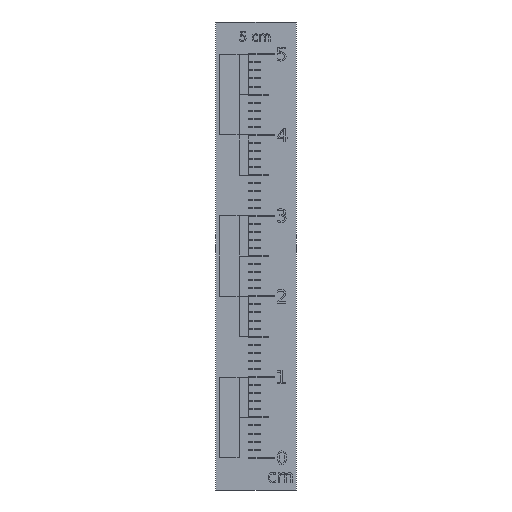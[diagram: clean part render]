
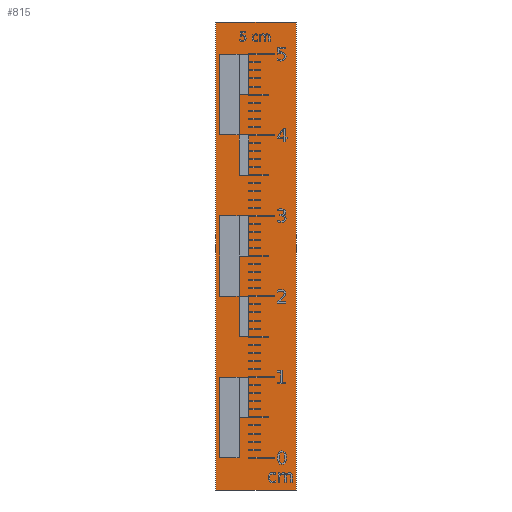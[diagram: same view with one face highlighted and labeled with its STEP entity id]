
A CAD part, front view. The second image highlights one B-rep face of the part: STEP entity #815.
In plain terms, the highlighted planar face has unit normal (0, -1, 0).
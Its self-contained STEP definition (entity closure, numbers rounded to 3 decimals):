
#599 = EDGE_CURVE('',#600,#602,#604,.T.);
#600 = VERTEX_POINT('',#601);
#601 = CARTESIAN_POINT('',(-5.,-0.6,-4.));
#602 = VERTEX_POINT('',#603);
#603 = CARTESIAN_POINT('',(-5.,-0.6,54.));
#604 = SURFACE_CURVE('',#605,(#609,#621),.PCURVE_S1.);
#605 = LINE('',#606,#607);
#606 = CARTESIAN_POINT('',(-5.,-0.6,-4.));
#607 = VECTOR('',#608,1.);
#608 = DIRECTION('',(0.,0.,1.));
#609 = PCURVE('',#610,#615);
#610 = PLANE('',#611);
#611 = AXIS2_PLACEMENT_3D('',#612,#613,#614);
#612 = CARTESIAN_POINT('',(-5.,-0.6,-4.));
#613 = DIRECTION('',(1.,0.,-0.));
#614 = DIRECTION('',(0.,0.,1.));
#615 = DEFINITIONAL_REPRESENTATION('',(#616),#620);
#616 = LINE('',#617,#618);
#617 = CARTESIAN_POINT('',(0.,0.));
#618 = VECTOR('',#619,1.);
#619 = DIRECTION('',(1.,0.));
#620 = ( GEOMETRIC_REPRESENTATION_CONTEXT(2) 
PARAMETRIC_REPRESENTATION_CONTEXT() REPRESENTATION_CONTEXT('2D SPACE',''
  ) );
#621 = PCURVE('',#622,#627);
#622 = PLANE('',#623);
#623 = AXIS2_PLACEMENT_3D('',#624,#625,#626);
#624 = CARTESIAN_POINT('',(-5.,-0.6,-4.));
#625 = DIRECTION('',(-0.,1.,0.));
#626 = DIRECTION('',(0.,0.,1.));
#627 = DEFINITIONAL_REPRESENTATION('',(#628),#632);
#628 = LINE('',#629,#630);
#629 = CARTESIAN_POINT('',(0.,0.));
#630 = VECTOR('',#631,1.);
#631 = DIRECTION('',(1.,0.));
#632 = ( GEOMETRIC_REPRESENTATION_CONTEXT(2) 
PARAMETRIC_REPRESENTATION_CONTEXT() REPRESENTATION_CONTEXT('2D SPACE',''
  ) );
#650 = PLANE('',#651);
#651 = AXIS2_PLACEMENT_3D('',#652,#653,#654);
#652 = CARTESIAN_POINT('',(-5.,-0.6,-4.));
#653 = DIRECTION('',(0.,0.,1.));
#654 = DIRECTION('',(1.,0.,-0.));
#704 = PLANE('',#705);
#705 = AXIS2_PLACEMENT_3D('',#706,#707,#708);
#706 = CARTESIAN_POINT('',(-5.,-0.6,54.));
#707 = DIRECTION('',(0.,0.,1.));
#708 = DIRECTION('',(1.,0.,-0.));
#719 = EDGE_CURVE('',#720,#722,#724,.T.);
#720 = VERTEX_POINT('',#721);
#721 = CARTESIAN_POINT('',(5.,-0.6,-4.));
#722 = VERTEX_POINT('',#723);
#723 = CARTESIAN_POINT('',(5.,-0.6,54.));
#724 = SURFACE_CURVE('',#725,(#729,#741),.PCURVE_S1.);
#725 = LINE('',#726,#727);
#726 = CARTESIAN_POINT('',(5.,-0.6,-4.));
#727 = VECTOR('',#728,1.);
#728 = DIRECTION('',(0.,0.,1.));
#729 = PCURVE('',#730,#735);
#730 = PLANE('',#731);
#731 = AXIS2_PLACEMENT_3D('',#732,#733,#734);
#732 = CARTESIAN_POINT('',(5.,-0.6,-4.));
#733 = DIRECTION('',(1.,0.,-0.));
#734 = DIRECTION('',(0.,0.,1.));
#735 = DEFINITIONAL_REPRESENTATION('',(#736),#740);
#736 = LINE('',#737,#738);
#737 = CARTESIAN_POINT('',(0.,0.));
#738 = VECTOR('',#739,1.);
#739 = DIRECTION('',(1.,0.));
#740 = ( GEOMETRIC_REPRESENTATION_CONTEXT(2) 
PARAMETRIC_REPRESENTATION_CONTEXT() REPRESENTATION_CONTEXT('2D SPACE',''
  ) );
#741 = PCURVE('',#622,#742);
#742 = DEFINITIONAL_REPRESENTATION('',(#743),#747);
#743 = LINE('',#744,#745);
#744 = CARTESIAN_POINT('',(0.,10.));
#745 = VECTOR('',#746,1.);
#746 = DIRECTION('',(1.,0.));
#747 = ( GEOMETRIC_REPRESENTATION_CONTEXT(2) 
PARAMETRIC_REPRESENTATION_CONTEXT() REPRESENTATION_CONTEXT('2D SPACE',''
  ) );
#815 = ADVANCED_FACE('',(#816),#622,.F.);
#816 = FACE_BOUND('',#817,.F.);
#817 = EDGE_LOOP('',(#818,#839,#840,#861));
#818 = ORIENTED_EDGE('',*,*,#819,.F.);
#819 = EDGE_CURVE('',#600,#720,#820,.T.);
#820 = SURFACE_CURVE('',#821,(#825,#832),.PCURVE_S1.);
#821 = LINE('',#822,#823);
#822 = CARTESIAN_POINT('',(-5.,-0.6,-4.));
#823 = VECTOR('',#824,1.);
#824 = DIRECTION('',(1.,0.,-0.));
#825 = PCURVE('',#622,#826);
#826 = DEFINITIONAL_REPRESENTATION('',(#827),#831);
#827 = LINE('',#828,#829);
#828 = CARTESIAN_POINT('',(0.,0.));
#829 = VECTOR('',#830,1.);
#830 = DIRECTION('',(0.,1.));
#831 = ( GEOMETRIC_REPRESENTATION_CONTEXT(2) 
PARAMETRIC_REPRESENTATION_CONTEXT() REPRESENTATION_CONTEXT('2D SPACE',''
  ) );
#832 = PCURVE('',#650,#833);
#833 = DEFINITIONAL_REPRESENTATION('',(#834),#838);
#834 = LINE('',#835,#836);
#835 = CARTESIAN_POINT('',(0.,0.));
#836 = VECTOR('',#837,1.);
#837 = DIRECTION('',(1.,0.));
#838 = ( GEOMETRIC_REPRESENTATION_CONTEXT(2) 
PARAMETRIC_REPRESENTATION_CONTEXT() REPRESENTATION_CONTEXT('2D SPACE',''
  ) );
#839 = ORIENTED_EDGE('',*,*,#599,.T.);
#840 = ORIENTED_EDGE('',*,*,#841,.T.);
#841 = EDGE_CURVE('',#602,#722,#842,.T.);
#842 = SURFACE_CURVE('',#843,(#847,#854),.PCURVE_S1.);
#843 = LINE('',#844,#845);
#844 = CARTESIAN_POINT('',(-5.,-0.6,54.));
#845 = VECTOR('',#846,1.);
#846 = DIRECTION('',(1.,0.,-0.));
#847 = PCURVE('',#622,#848);
#848 = DEFINITIONAL_REPRESENTATION('',(#849),#853);
#849 = LINE('',#850,#851);
#850 = CARTESIAN_POINT('',(58.,0.));
#851 = VECTOR('',#852,1.);
#852 = DIRECTION('',(0.,1.));
#853 = ( GEOMETRIC_REPRESENTATION_CONTEXT(2) 
PARAMETRIC_REPRESENTATION_CONTEXT() REPRESENTATION_CONTEXT('2D SPACE',''
  ) );
#854 = PCURVE('',#704,#855);
#855 = DEFINITIONAL_REPRESENTATION('',(#856),#860);
#856 = LINE('',#857,#858);
#857 = CARTESIAN_POINT('',(0.,0.));
#858 = VECTOR('',#859,1.);
#859 = DIRECTION('',(1.,0.));
#860 = ( GEOMETRIC_REPRESENTATION_CONTEXT(2) 
PARAMETRIC_REPRESENTATION_CONTEXT() REPRESENTATION_CONTEXT('2D SPACE',''
  ) );
#861 = ORIENTED_EDGE('',*,*,#719,.F.);
